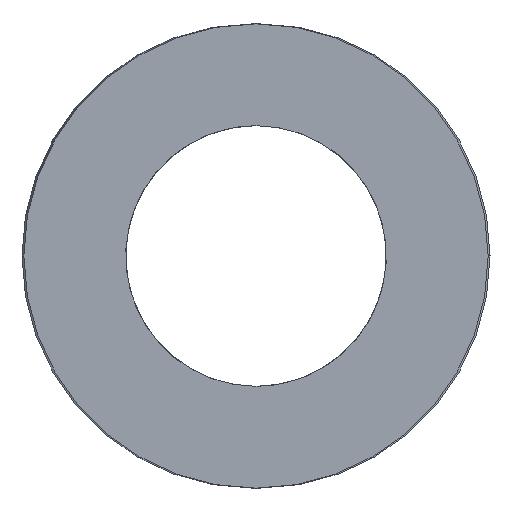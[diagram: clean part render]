
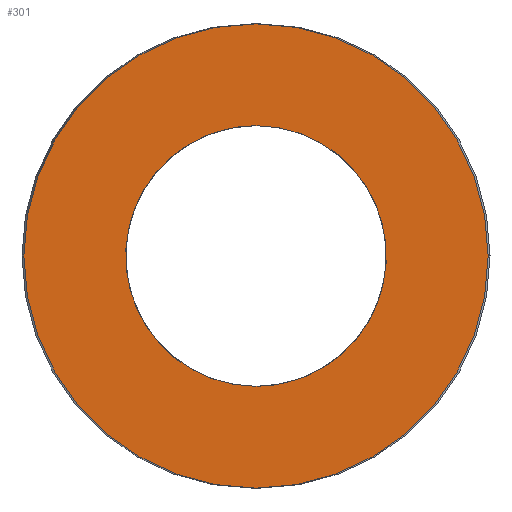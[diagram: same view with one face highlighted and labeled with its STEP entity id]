
A CAD part, left-side view. The second image highlights one B-rep face of the part: STEP entity #301.
In plain terms, the highlighted planar face has unit normal (-1, 0, 0).
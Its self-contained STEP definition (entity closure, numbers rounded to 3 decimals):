
#63=CARTESIAN_POINT('Vertex',(0.,15.5,0.)) ;
#77=CARTESIAN_POINT('Vertex',(0.,-15.5,0.)) ;
#80=CARTESIAN_POINT('Axis2P3D Location',(0.,0.,0.)) ;
#97=CARTESIAN_POINT('Axis2P3D Location',(0.,0.,0.)) ;
#232=CARTESIAN_POINT('Axis2P3D Location',(0.,7.75,0.)) ;
#242=CARTESIAN_POINT('Control Point',(0.,0.,-8.7)) ;
#243=CARTESIAN_POINT('Control Point',(0.,0.867,-8.7)) ;
#244=CARTESIAN_POINT('Control Point',(0.,1.734,-8.592)) ;
#245=CARTESIAN_POINT('Control Point',(0.,2.583,-8.376)) ;
#246=CARTESIAN_POINT('Control Point',(0.,4.209,-7.737)) ;
#247=CARTESIAN_POINT('Control Point',(0.,5.629,-6.719)) ;
#248=CARTESIAN_POINT('Control Point',(0.,6.272,-6.123)) ;
#249=CARTESIAN_POINT('Control Point',(0.,7.395,-4.785)) ;
#250=CARTESIAN_POINT('Control Point',(0.,8.156,-3.211)) ;
#251=CARTESIAN_POINT('Control Point',(0.,8.436,-2.381)) ;
#252=CARTESIAN_POINT('Control Point',(0.,8.783,-0.669)) ;
#253=CARTESIAN_POINT('Control Point',(0.,8.699,1.077)) ;
#254=CARTESIAN_POINT('Control Point',(0.,8.548,1.94)) ;
#255=CARTESIAN_POINT('Control Point',(0.,8.034,3.61)) ;
#256=CARTESIAN_POINT('Control Point',(0.,7.127,5.103)) ;
#257=CARTESIAN_POINT('Control Point',(0.,6.581,5.789)) ;
#258=CARTESIAN_POINT('Control Point',(0.,5.332,7.011)) ;
#259=CARTESIAN_POINT('Control Point',(0.,3.821,7.888)) ;
#260=CARTESIAN_POINT('Control Point',(0.,3.015,8.231)) ;
#261=CARTESIAN_POINT('Control Point',(0.,1.918,8.541)) ;
#262=CARTESIAN_POINT('Control Point',(0.,0.793,8.67)) ;
#263=CARTESIAN_POINT('Control Point',(0.,0.529,8.69)) ;
#264=CARTESIAN_POINT('Control Point',(0.,0.264,8.7)) ;
#265=CARTESIAN_POINT('Control Point',(0.,0.,8.7)) ;
#266=CARTESIAN_POINT('Vertex',(0.,0.,-8.7)) ;
#268=CARTESIAN_POINT('Vertex',(0.,0.,8.7)) ;
#272=CARTESIAN_POINT('Control Point',(0.,0.,8.7)) ;
#273=CARTESIAN_POINT('Control Point',(0.,-0.867,8.7)) ;
#274=CARTESIAN_POINT('Control Point',(0.,-1.734,8.592)) ;
#275=CARTESIAN_POINT('Control Point',(0.,-2.583,8.376)) ;
#276=CARTESIAN_POINT('Control Point',(0.,-4.209,7.737)) ;
#277=CARTESIAN_POINT('Control Point',(0.,-5.629,6.719)) ;
#278=CARTESIAN_POINT('Control Point',(0.,-6.272,6.123)) ;
#279=CARTESIAN_POINT('Control Point',(0.,-7.395,4.785)) ;
#280=CARTESIAN_POINT('Control Point',(0.,-8.156,3.211)) ;
#281=CARTESIAN_POINT('Control Point',(0.,-8.436,2.381)) ;
#282=CARTESIAN_POINT('Control Point',(0.,-8.783,0.669)) ;
#283=CARTESIAN_POINT('Control Point',(0.,-8.699,-1.077)) ;
#284=CARTESIAN_POINT('Control Point',(0.,-8.548,-1.94)) ;
#285=CARTESIAN_POINT('Control Point',(0.,-8.034,-3.61)) ;
#286=CARTESIAN_POINT('Control Point',(0.,-7.127,-5.103)) ;
#287=CARTESIAN_POINT('Control Point',(0.,-6.581,-5.789)) ;
#288=CARTESIAN_POINT('Control Point',(0.,-5.332,-7.011)) ;
#289=CARTESIAN_POINT('Control Point',(0.,-3.821,-7.888)) ;
#290=CARTESIAN_POINT('Control Point',(0.,-3.015,-8.231)) ;
#291=CARTESIAN_POINT('Control Point',(0.,-1.918,-8.541)) ;
#292=CARTESIAN_POINT('Control Point',(0.,-0.793,-8.67)) ;
#293=CARTESIAN_POINT('Control Point',(0.,-0.529,-8.69)) ;
#294=CARTESIAN_POINT('Control Point',(0.,-0.264,-8.7)) ;
#295=CARTESIAN_POINT('Control Point',(0.,0.,-8.7)) ;
#81=DIRECTION('Axis2P3D Direction',(1.,-0.,0.)) ;
#98=DIRECTION('Axis2P3D Direction',(1.,-0.,0.)) ;
#233=DIRECTION('Axis2P3D Direction',(-1.,0.,0.)) ;
#234=DIRECTION('Axis2P3D XDirection',(0.,1.,0.)) ;
#82=AXIS2_PLACEMENT_3D('Circle Axis2P3D',#80,#81,$) ;
#99=AXIS2_PLACEMENT_3D('Circle Axis2P3D',#97,#98,$) ;
#235=AXIS2_PLACEMENT_3D('Plane Axis2P3D',#232,#233,#234) ;
#238=ORIENTED_EDGE('',*,*,#84,.T.) ;
#239=ORIENTED_EDGE('',*,*,#101,.T.) ;
#298=ORIENTED_EDGE('',*,*,#270,.T.) ;
#299=ORIENTED_EDGE('',*,*,#296,.T.) ;
#300=FACE_BOUND('',#297,.T.) ;
#301=ADVANCED_FACE('392-B32-089',(#240,#300),#236,.T.) ;
#241=B_SPLINE_CURVE_WITH_KNOTS('',5,(#242,#243,#244,#245,#246,#247,#248,#249,#250,#251,#252,#253,#254,#255,#256,#257,#258,#259,#260,#261,#262,#263,#264,#265),.UNSPECIFIED.,.F.,.U.,(6,3,3,3,3,3,3,6),(0.,6.131,12.261,18.392,24.522,30.653,36.783,38.652),.UNSPECIFIED.) ;
#271=B_SPLINE_CURVE_WITH_KNOTS('',5,(#272,#273,#274,#275,#276,#277,#278,#279,#280,#281,#282,#283,#284,#285,#286,#287,#288,#289,#290,#291,#292,#293,#294,#295),.UNSPECIFIED.,.F.,.U.,(6,3,3,3,3,3,3,6),(0.,6.131,12.261,18.392,24.522,30.653,36.783,38.652),.UNSPECIFIED.) ;
#83=CIRCLE('generated circle',#82,15.5) ;
#100=CIRCLE('generated circle',#99,15.5) ;
#84=EDGE_CURVE('',#64,#78,#83,.F.) ;
#101=EDGE_CURVE('',#78,#64,#100,.F.) ;
#270=EDGE_CURVE('',#267,#269,#241,.T.) ;
#296=EDGE_CURVE('',#269,#267,#271,.T.) ;
#237=EDGE_LOOP('',(#238,#239)) ;
#297=EDGE_LOOP('',(#298,#299)) ;
#240=FACE_OUTER_BOUND('',#237,.T.) ;
#236=PLANE('Plane',#235) ;
#64=VERTEX_POINT('',#63) ;
#78=VERTEX_POINT('',#77) ;
#267=VERTEX_POINT('',#266) ;
#269=VERTEX_POINT('',#268) ;
